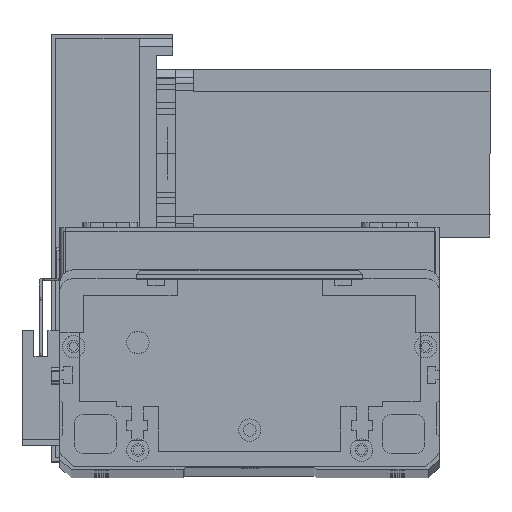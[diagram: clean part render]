
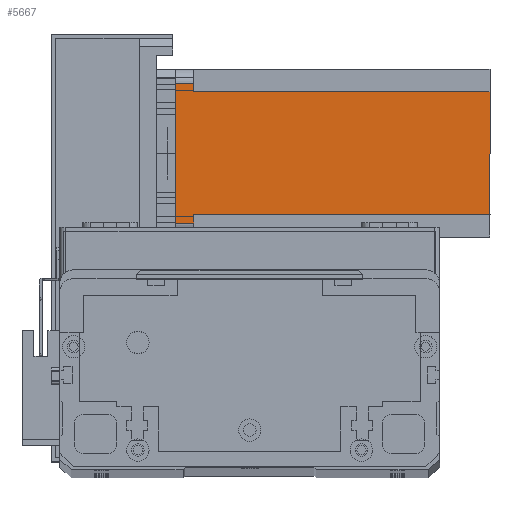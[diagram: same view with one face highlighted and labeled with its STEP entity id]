
A CAD part, top view. The second image highlights one B-rep face of the part: STEP entity #5667.
In plain terms, the highlighted planar face has unit normal (0, 0, 1) as drawn and (0, -1, 0) by its records, which use the part's own axes.
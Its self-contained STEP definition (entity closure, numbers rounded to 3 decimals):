
#107 = ORIENTED_EDGE ( 'NONE', *, *, #10681, .F. ) ;
#1892 = EDGE_CURVE ( 'NONE', #4817, #20770, #4184, .T. ) ;
#2825 = EDGE_CURVE ( 'NONE', #9305, #10449, #11958, .T. ) ;
#4184 = LINE ( 'NONE', #29176, #26502 ) ;
#4497 = DIRECTION ( 'NONE',  ( 1., 0., 0. ) ) ;
#4817 = VERTEX_POINT ( 'NONE', #7608 ) ;
#5060 = CARTESIAN_POINT ( 'NONE',  ( 52., 0., -6.5 ) ) ;
#5667 = ADVANCED_FACE ( 'NONE', ( #22958 ), #6501, .T. ) ;
#6292 = EDGE_CURVE ( 'NONE', #20120, #20770, #14066, .T. ) ;
#6501 = PLANE ( 'NONE',  #21157 ) ;
#7171 = CARTESIAN_POINT ( 'NONE',  ( 0., 0., -112.5 ) ) ;
#7608 = CARTESIAN_POINT ( 'NONE',  ( 55., 0., -6.5 ) ) ;
#7848 = VECTOR ( 'NONE', #4497, 1000. ) ;
#8026 = CARTESIAN_POINT ( 'NONE',  ( 52., 0., -112.5 ) ) ;
#8328 = ORIENTED_EDGE ( 'NONE', *, *, #12785, .F. ) ;
#8975 = DIRECTION ( 'NONE',  ( -1., 0., 0. ) ) ;
#9305 = VERTEX_POINT ( 'NONE', #22074 ) ;
#9321 = CARTESIAN_POINT ( 'NONE',  ( 5., 0., -6.5 ) ) ;
#9382 = CARTESIAN_POINT ( 'NONE',  ( 5., 0., 0. ) ) ;
#9441 = CARTESIAN_POINT ( 'NONE',  ( 55., 0., 0. ) ) ;
#9731 = CARTESIAN_POINT ( 'NONE',  ( 8., 0., -112.5 ) ) ;
#10449 = VERTEX_POINT ( 'NONE', #8026 ) ;
#10681 = EDGE_CURVE ( 'NONE', #15511, #26331, #16434, .T. ) ;
#11085 = VECTOR ( 'NONE', #25865, 1000. ) ;
#11958 = LINE ( 'NONE', #23226, #22612 ) ;
#12785 = EDGE_CURVE ( 'NONE', #21416, #15511, #18081, .T. ) ;
#12874 = DIRECTION ( 'NONE',  ( 1., 0., 0. ) ) ;
#14066 = LINE ( 'NONE', #28406, #7848 ) ;
#15511 = VERTEX_POINT ( 'NONE', #22552 ) ;
#15595 = ORIENTED_EDGE ( 'NONE', *, *, #26025, .T. ) ;
#16157 = VECTOR ( 'NONE', #26382, 1000. ) ;
#16434 = LINE ( 'NONE', #20399, #22430 ) ;
#17168 = CARTESIAN_POINT ( 'NONE',  ( 8., 0., -112.5 ) ) ;
#17558 = CARTESIAN_POINT ( 'NONE',  ( 5., 0., -112.5 ) ) ;
#17855 = ORIENTED_EDGE ( 'NONE', *, *, #18802, .T. ) ;
#18081 = LINE ( 'NONE', #17168, #28576 ) ;
#18802 = EDGE_CURVE ( 'NONE', #9305, #4817, #29100, .T. ) ;
#20120 = VERTEX_POINT ( 'NONE', #9382 ) ;
#20399 = CARTESIAN_POINT ( 'NONE',  ( 8., 0., -6.5 ) ) ;
#20770 = VERTEX_POINT ( 'NONE', #9441 ) ;
#20919 = LINE ( 'NONE', #26413, #26164 ) ;
#21019 = ORIENTED_EDGE ( 'NONE', *, *, #1892, .T. ) ;
#21157 = AXIS2_PLACEMENT_3D ( 'NONE', #7171, #24425, #24391 ) ;
#21416 = VERTEX_POINT ( 'NONE', #9731 ) ;
#22074 = CARTESIAN_POINT ( 'NONE',  ( 52., 0., -6.5 ) ) ;
#22430 = VECTOR ( 'NONE', #8975, 1000. ) ;
#22552 = CARTESIAN_POINT ( 'NONE',  ( 8., 0., -6.5 ) ) ;
#22612 = VECTOR ( 'NONE', #22667, 1000. ) ;
#22667 = DIRECTION ( 'NONE',  ( 0., 0., -1. ) ) ;
#22958 = FACE_OUTER_BOUND ( 'NONE', #23624, .T. ) ;
#23226 = CARTESIAN_POINT ( 'NONE',  ( 52., 0., -112.5 ) ) ;
#23624 = EDGE_LOOP ( 'NONE', ( #17855, #21019, #24167, #27240, #107, #8328, #15595, #24054 ) ) ;
#24054 = ORIENTED_EDGE ( 'NONE', *, *, #2825, .F. ) ;
#24167 = ORIENTED_EDGE ( 'NONE', *, *, #6292, .F. ) ;
#24391 = DIRECTION ( 'NONE',  ( 0., 0., -1. ) ) ;
#24425 = DIRECTION ( 'NONE',  ( 0., -1., 0. ) ) ;
#25865 = DIRECTION ( 'NONE',  ( 1., 0., 0. ) ) ;
#26025 = EDGE_CURVE ( 'NONE', #21416, #10449, #20919, .T. ) ;
#26164 = VECTOR ( 'NONE', #12874, 1000. ) ;
#26188 = DIRECTION ( 'NONE',  ( 0., 0., 1. ) ) ;
#26331 = VERTEX_POINT ( 'NONE', #9321 ) ;
#26382 = DIRECTION ( 'NONE',  ( 0., 0., -1. ) ) ;
#26413 = CARTESIAN_POINT ( 'NONE',  ( 0., 0., -112.5 ) ) ;
#26502 = VECTOR ( 'NONE', #28772, 1000. ) ;
#27240 = ORIENTED_EDGE ( 'NONE', *, *, #29775, .T. ) ;
#28078 = LINE ( 'NONE', #17558, #16157 ) ;
#28406 = CARTESIAN_POINT ( 'NONE',  ( 0., 0., 0. ) ) ;
#28576 = VECTOR ( 'NONE', #26188, 1000. ) ;
#28772 = DIRECTION ( 'NONE',  ( 0., 0., 1. ) ) ;
#29100 = LINE ( 'NONE', #5060, #11085 ) ;
#29176 = CARTESIAN_POINT ( 'NONE',  ( 55., 0., -112.5 ) ) ;
#29775 = EDGE_CURVE ( 'NONE', #20120, #26331, #28078, .T. ) ;
